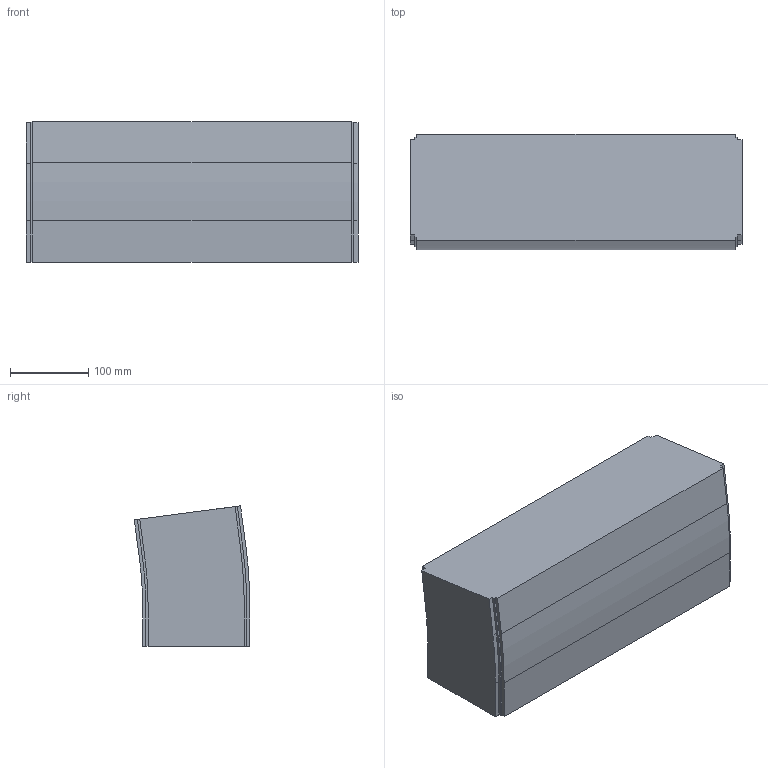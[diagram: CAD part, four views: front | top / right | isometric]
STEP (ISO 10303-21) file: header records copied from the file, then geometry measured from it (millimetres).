
FILE_DESCRIPTION (( 'STEP AP214' ), '1' );
FILE_NAME ('FS-MTC2-150-INOX verticaalbocht.420 7,5°.STEP', '2017-02-08T12:41:46', ( '' ), ( '' ), 'SwSTEP 2.0', 'SolidWorks 2016', '' );
FILE_SCHEMA (( 'AUTOMOTIVE_DESIGN' ));
Length unit declared in the file: millimetre
Products named in the file (1): FS-MTC2-150-INOX verticaalbocht.420 7,5°
Bounding box: 423 x 147.05 x 178.72 mm (x, y, z)
Volume: 9806780.8 mm3; surface area: 305802.8 mm2
Topology: 1 solids, 1 shells, 42 faces, 120 edges, 80 vertices
Faces by surface type: plane 32, cylinder 10
Entity records: 1398 total; most frequent: CARTESIAN_POINT 243, ORIENTED_EDGE 240, DIRECTION 226, EDGE_CURVE 120, LINE 100, VECTOR 100, VERTEX_POINT 80, AXIS2_PLACEMENT_3D 63
